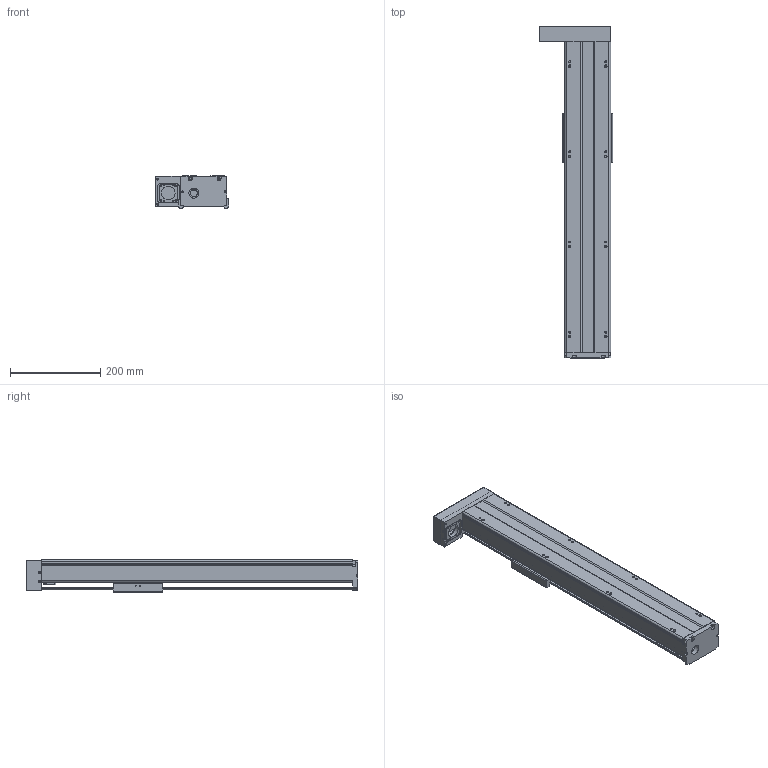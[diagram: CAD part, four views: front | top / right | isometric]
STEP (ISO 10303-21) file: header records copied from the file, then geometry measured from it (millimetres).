
FILE_DESCRIPTION(/* description */ (''),/* implementation_level */ '2;1');
FILE_NAME(/* name */ 'TKA100-FL-500_asm1.stp',/* time_stamp */ '2016-05-17T14:49:27+08:00',/* author */ (''),/* organization */ (''),/* preprocessor_version */ 'ST-DEVELOPER v15',/* originating_system */ 'SIEMENS PLM Software NX 8.5',/* authorisation */ '');
FILE_SCHEMA (('AUTOMOTIVE_DESIGN { 1 0 10303 214 3 1 1 1 }'));
Length unit declared in the file: millimetre
Products named in the file (3): 200-2; 200-1; TKA100-FL-500_asm1
Assembly tree (2 placements, depth 2):
  TKA100-FL-500_asm1
    200-1
    200-2
Bounding box: 162 x 736 x 71 mm (x, y, z)
Volume: 1665332 mm3; surface area: 568171.9 mm2
Topology: 2 solids, 16 shells, 784 faces, 2036 edges, 1323 vertices
Faces by surface type: plane 316, cylinder 295, cone 119, torus 28, bspline 26
Full cylindrical faces by diameter (mm): 2.5 x6, 2.6 x8, 3.3 x11, 3.4 x4, 3.8 x8, 4.2 x17, 4.3 x4, 4.5 x10, 5 x2, 5.5 x16, 6.6 x4, 8 x4, 9 x6, 10 x5, 11 x4, 12 x6, 15.3 x1, 16 x1, 22 x1, 24 x1, 28 x2, 30 x1, 33 x1
Entity records: 28903 total; most frequent: CARTESIAN_POINT 10637, DIRECTION 3739, ORIENTED_EDGE 3564, EDGE_CURVE 1782, AXIS2_PLACEMENT_3D 1469, VERTEX_POINT 1258, EDGE_LOOP 1075, LINE 801
